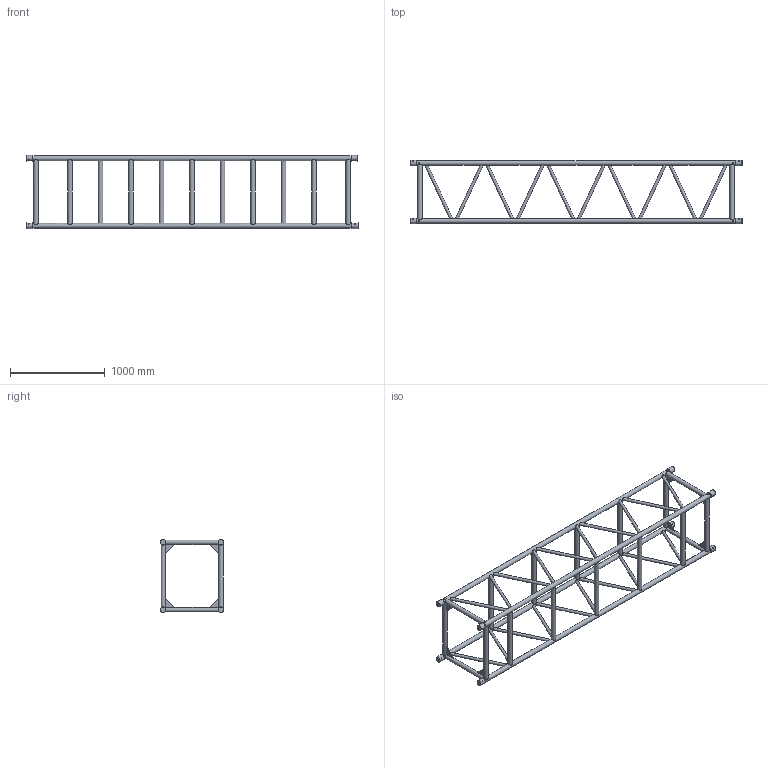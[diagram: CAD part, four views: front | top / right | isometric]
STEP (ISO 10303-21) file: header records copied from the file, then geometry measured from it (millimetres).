
FILE_DESCRIPTION(/* description */ (''),/* implementation_level */ '2;1');
FILE_NAME(/* name */ 'C:\Users\adrian.toca\Desktop\111110324.stp',/* time_stamp */ '2016-12-08T10:58:54+02:00',/* author */ ('adrian.toca'),/* organization */ (''),/* preprocessor_version */ 'ST-DEVELOPER v15.6',/* originating_system */ 'Autodesk Inventor 2015',/* authorisation */ '');
FILE_SCHEMA (('AUTOMOTIVE_DESIGN { 1 0 10303 214 3 1 1 }'));
Length unit declared in the file: millimetre
Products named in the file (1): 260031318
Bounding box: 3500 x 668.58 x 770.58 mm (x, y, z)
Volume: 56880796.2 mm3; surface area: 5107867 mm2
Topology: 1 solids, 1 shells, 301 faces, 841 edges, 532 vertices
Faces by surface type: plane 220, cylinder 73, cone 8
Full cylindrical faces by diameter (mm): 10 x8, 30 x20, 48.3 x13, 48.302 x4, 50 x4, 58.8 x8
Entity records: 12725 total; most frequent: CARTESIAN_POINT 5294, DIRECTION 1440, ORIENTED_EDGE 1368, EDGE_CURVE 676, AXIS2_PLACEMENT_3D 634, EDGE_LOOP 472, VERTEX_POINT 464, STYLED_ITEM 302
